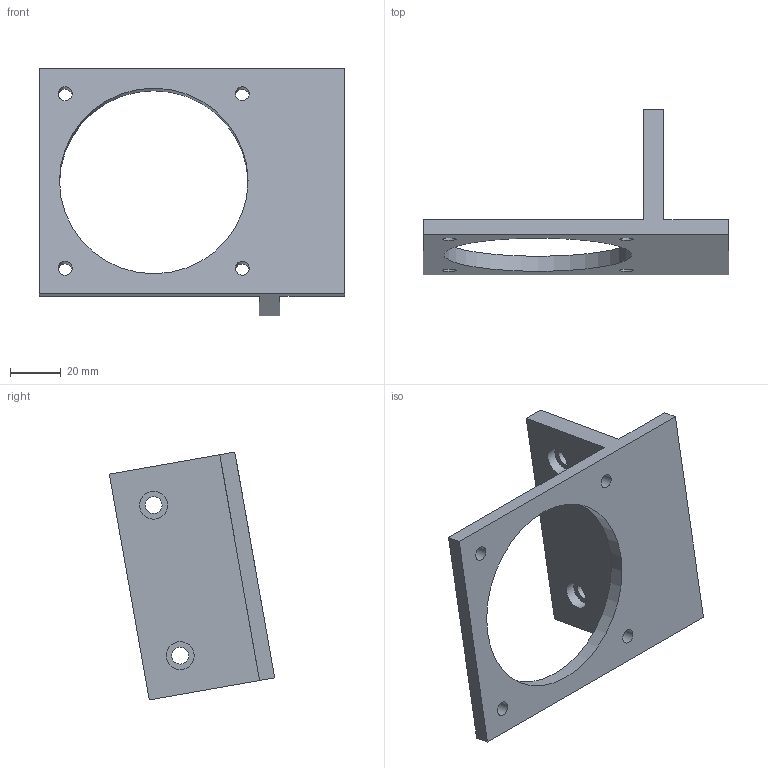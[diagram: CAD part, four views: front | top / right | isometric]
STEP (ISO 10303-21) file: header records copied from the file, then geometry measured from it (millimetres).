
FILE_DESCRIPTION(('golf model'),'2;1');
FILE_NAME('golf','',(''),(''),'golf_step_io','golf','');
FILE_SCHEMA(('AUTOMOTIVE_DESIGN { 1 0 10303 214 1 1 1 1 }'));
Length unit declared in the file: millimetre
Products named in the file (2): ASSEMBLY; y_carriage.z_motor_mount
Assembly tree (1 placements, depth 2):
  ASSEMBLY
    y_carriage.z_motor_mount
Bounding box: 120 x 64.87 x 97.32 mm (x, y, z)
Volume: 69070.8 mm3; surface area: 26067.3 mm2
Topology: 1 solids, 1 shells, 21 faces, 55 edges, 38 vertices
Faces by surface type: plane 12, cylinder 9
Full cylindrical faces by diameter (mm): 5.5 x4, 6.6 x2, 11 x2, 74 x1
Entity records: 640 total; most frequent: DIRECTION 106, CARTESIAN_POINT 99, ORIENTED_EDGE 84, EDGE_LOOP 46, EDGE_CURVE 42, AXIS2_PLACEMENT_3D 41, FACE_BOUND 40, VERTEX_POINT 34
